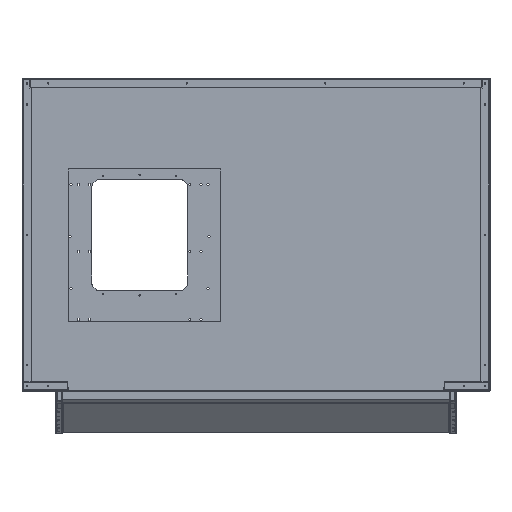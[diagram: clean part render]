
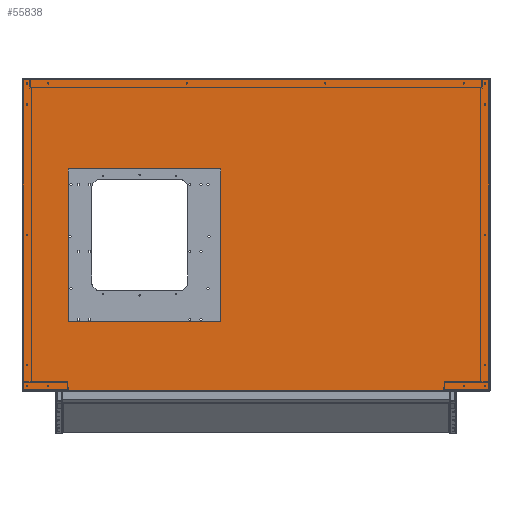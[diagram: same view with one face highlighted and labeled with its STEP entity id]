
A CAD part, top view. The second image highlights one B-rep face of the part: STEP entity #55838.
In plain terms, the highlighted planar face has unit normal (0, 0, 1).
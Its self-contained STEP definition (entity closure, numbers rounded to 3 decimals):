
#10792=ORIENTED_EDGE('',*,*,#24296,.F.);
#10793=ORIENTED_EDGE('',*,*,#24297,.F.);
#10794=ORIENTED_EDGE('',*,*,#24298,.F.);
#10795=ORIENTED_EDGE('',*,*,#24299,.F.);
#10796=ORIENTED_EDGE('',*,*,#24300,.T.);
#10797=ORIENTED_EDGE('',*,*,#24301,.F.);
#10798=ORIENTED_EDGE('',*,*,#24302,.F.);
#10799=ORIENTED_EDGE('',*,*,#24303,.F.);
#24296=EDGE_CURVE('',#31564,#31565,#37153,.T.);
#24297=EDGE_CURVE('',#31566,#31564,#37154,.T.);
#24298=EDGE_CURVE('',#31567,#31566,#37155,.T.);
#24299=EDGE_CURVE('',#31565,#31567,#37156,.T.);
#24300=EDGE_CURVE('',#31568,#31569,#37157,.T.);
#24301=EDGE_CURVE('',#31570,#31569,#37158,.F.);
#24302=EDGE_CURVE('',#31571,#31570,#37159,.T.);
#24303=EDGE_CURVE('',#31568,#31571,#37160,.T.);
#31564=VERTEX_POINT('',#87077);
#31565=VERTEX_POINT('',#87078);
#31566=VERTEX_POINT('',#87080);
#31567=VERTEX_POINT('',#87082);
#31568=VERTEX_POINT('',#87085);
#31569=VERTEX_POINT('',#87086);
#31570=VERTEX_POINT('',#87088);
#31571=VERTEX_POINT('',#87090);
#37153=LINE('',#87076,#42308);
#37154=LINE('',#87079,#42309);
#37155=LINE('',#87081,#42310);
#37156=LINE('',#87083,#42311);
#37157=LINE('',#87084,#42312);
#37158=LINE('',#87087,#42313);
#37159=LINE('',#87089,#42314);
#37160=LINE('',#87091,#42315);
#42308=VECTOR('',#70392,1000.);
#42309=VECTOR('',#70393,1000.);
#42310=VECTOR('',#70394,1000.);
#42311=VECTOR('',#70395,1000.);
#42312=VECTOR('',#70396,1000.);
#42313=VECTOR('',#70397,1000.);
#42314=VECTOR('',#70398,1000.);
#42315=VECTOR('',#70399,1000.);
#46863=EDGE_LOOP('',(#10792,#10793,#10794,#10795));
#46864=EDGE_LOOP('',(#10796,#10797,#10798,#10799));
#50816=FACE_BOUND('',#46863,.T.);
#50817=FACE_BOUND('',#46864,.T.);
#53860=PLANE('',#60864);
#55838=ADVANCED_FACE('',(#50816,#50817),#53860,.F.);
#60864=AXIS2_PLACEMENT_3D('',#87075,#70390,#70391);
#70390=DIRECTION('',(0.,0.,-1.));
#70391=DIRECTION('',(-1.,0.,0.));
#70392=DIRECTION('',(1.,0.,0.));
#70393=DIRECTION('',(0.,-1.,0.));
#70394=DIRECTION('',(-1.,0.,0.));
#70395=DIRECTION('',(0.,1.,0.));
#70396=DIRECTION('',(1.,0.,0.));
#70397=DIRECTION('',(0.,1.,0.));
#70398=DIRECTION('',(1.,0.,0.));
#70399=DIRECTION('',(0.,1.,0.));
#87075=CARTESIAN_POINT('',(0.,0.,0.));
#87076=CARTESIAN_POINT('',(-614.81,-284.81,0.));
#87077=CARTESIAN_POINT('',(-614.81,-284.81,0.));
#87078=CARTESIAN_POINT('',(-114.81,-284.81,0.));
#87079=CARTESIAN_POINT('',(-614.81,215.19,0.));
#87080=CARTESIAN_POINT('',(-614.81,215.19,0.));
#87081=CARTESIAN_POINT('',(-114.81,215.19,0.));
#87082=CARTESIAN_POINT('',(-114.81,215.19,0.));
#87083=CARTESIAN_POINT('',(-114.81,-284.81,0.));
#87084=CARTESIAN_POINT('',(-765.398,-511.398,0.));
#87085=CARTESIAN_POINT('',(-765.398,-511.398,0.));
#87086=CARTESIAN_POINT('',(765.398,-511.398,0.));
#87087=CARTESIAN_POINT('',(765.398,511.398,0.));
#87088=CARTESIAN_POINT('',(765.398,511.398,0.));
#87089=CARTESIAN_POINT('',(-765.398,511.398,0.));
#87090=CARTESIAN_POINT('',(-765.398,511.398,0.));
#87091=CARTESIAN_POINT('',(-765.398,-511.398,0.));
